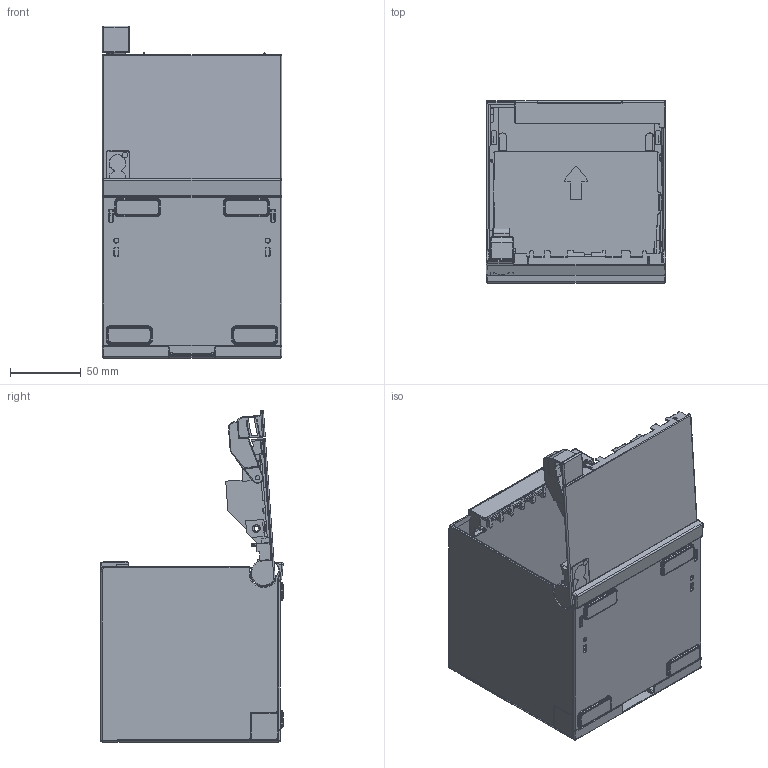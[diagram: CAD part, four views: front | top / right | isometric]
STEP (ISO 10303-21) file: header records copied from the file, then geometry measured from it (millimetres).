
FILE_DESCRIPTION((''),'2;1');
FILE_NAME('TM-M30III_FRONT_OPEN_SW0001','2025-01-23T14:28:09',('0092109'),(''),'CREO PARAMETRIC BY PTC INC, 2022281','CREO PARAMETRIC BY PTC INC, 2022281','');
FILE_SCHEMA(('AUTOMOTIVE_DESIGN { 1 0 10303 214 1 1 1 1 }'));
Products named in the file (1): TM-M30III_FRONT_OPEN_SW0001
Bounding box: 127 x 129.03 x 234.9 mm (x, y, z)
Surface area: 214574.5 mm2 (no closed solid volume)
Topology: 0 solids, 23 shells, 2538 faces, 7535 edges, 4953 vertices
Faces by surface type: plane 1312, cylinder 882, torus 185, bspline 77, sphere 55, cone 26, extrusion 1
Entity records: 89749 total; most frequent: CARTESIAN_POINT 21517, DIRECTION 14223, ORIENTED_EDGE 13853, EDGE_CURVE 7535, VECTOR 5077, LINE 5076, VERTEX_POINT 4953, AXIS2_PLACEMENT_3D 4573
